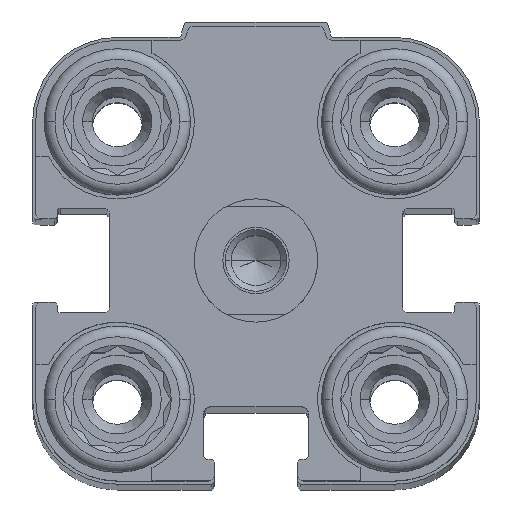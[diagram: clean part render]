
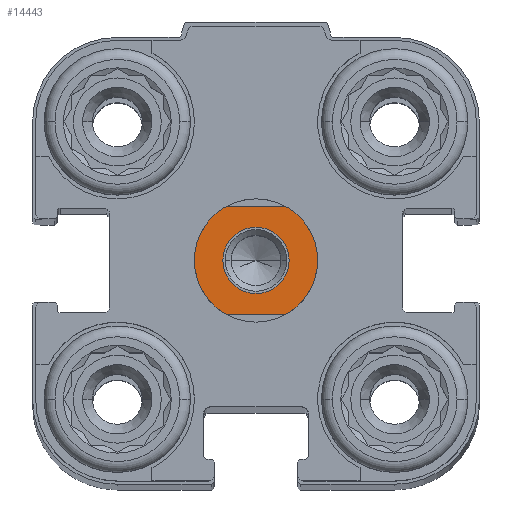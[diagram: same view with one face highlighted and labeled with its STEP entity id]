
A CAD part, top view. The second image highlights one B-rep face of the part: STEP entity #14443.
In plain terms, the highlighted planar face has unit normal (0, 0, 1).
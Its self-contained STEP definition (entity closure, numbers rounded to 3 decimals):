
#154 = CARTESIAN_POINT ( 'NONE',  ( 2.15, 0., 4.5 ) ) ;
#161 = ORIENTED_EDGE ( 'NONE', *, *, #10831, .T. ) ;
#213 = VECTOR ( 'NONE', #6345, 1000. ) ;
#549 = CARTESIAN_POINT ( 'NONE',  ( 0., 0., 4.5 ) ) ;
#1376 = EDGE_CURVE ( 'NONE', #11096, #3954, #14523, .T. ) ;
#1418 = CARTESIAN_POINT ( 'NONE',  ( 7., -3.5, 4.5 ) ) ;
#1562 = CIRCLE ( 'NONE', #15064, 2.15 ) ;
#1791 = PLANE ( 'NONE',  #10524 ) ;
#2148 = CIRCLE ( 'NONE', #9620, 4. ) ;
#2903 = DIRECTION ( 'NONE',  ( -1., 0., 0. ) ) ;
#3254 = CARTESIAN_POINT ( 'NONE',  ( 0., 0., 4.5 ) ) ;
#3766 = ORIENTED_EDGE ( 'NONE', *, *, #10337, .T. ) ;
#3954 = VERTEX_POINT ( 'NONE', #17569 ) ;
#4349 = CARTESIAN_POINT ( 'NONE',  ( 1.936, -3.5, 4.5 ) ) ;
#4358 = DIRECTION ( 'NONE',  ( 0., 0., -1. ) ) ;
#4405 = FACE_OUTER_BOUND ( 'NONE', #7008, .T. ) ;
#5013 = ORIENTED_EDGE ( 'NONE', *, *, #14653, .F. ) ;
#5559 = LINE ( 'NONE', #1418, #6099 ) ;
#5972 = AXIS2_PLACEMENT_3D ( 'NONE', #3254, #7581, #8929 ) ;
#6099 = VECTOR ( 'NONE', #6914, 1000. ) ;
#6202 = EDGE_CURVE ( 'NONE', #3954, #11638, #15429, .T. ) ;
#6345 = DIRECTION ( 'NONE',  ( 1., 0., 0. ) ) ;
#6518 = VERTEX_POINT ( 'NONE', #16436 ) ;
#6914 = DIRECTION ( 'NONE',  ( -1., 0., 0. ) ) ;
#7008 = EDGE_LOOP ( 'NONE', ( #8386, #13171, #5013, #14810, #8297, #16999 ) ) ;
#7581 = DIRECTION ( 'NONE',  ( 0., 0., -1. ) ) ;
#7607 = CARTESIAN_POINT ( 'NONE',  ( -7., 3.5, 4.5 ) ) ;
#7646 = EDGE_CURVE ( 'NONE', #17770, #10517, #5559, .T. ) ;
#7648 = CARTESIAN_POINT ( 'NONE',  ( -2.15, 0., 4.5 ) ) ;
#8161 = DIRECTION ( 'NONE',  ( -1., 0., 0. ) ) ;
#8230 = CARTESIAN_POINT ( 'NONE',  ( 0., 0., 4.5 ) ) ;
#8297 = ORIENTED_EDGE ( 'NONE', *, *, #11910, .F. ) ;
#8386 = ORIENTED_EDGE ( 'NONE', *, *, #1376, .F. ) ;
#8649 = VERTEX_POINT ( 'NONE', #7648 ) ;
#8814 = VERTEX_POINT ( 'NONE', #154 ) ;
#8929 = DIRECTION ( 'NONE',  ( -1., 0., 0. ) ) ;
#9164 = DIRECTION ( 'NONE',  ( -1., 0., 0. ) ) ;
#9620 = AXIS2_PLACEMENT_3D ( 'NONE', #13556, #17742, #8161 ) ;
#9900 = FACE_BOUND ( 'NONE', #13806, .T. ) ;
#10168 = EDGE_CURVE ( 'NONE', #6518, #11096, #15354, .T. ) ;
#10337 = EDGE_CURVE ( 'NONE', #8814, #8649, #1562, .T. ) ;
#10517 = VERTEX_POINT ( 'NONE', #12651 ) ;
#10524 = AXIS2_PLACEMENT_3D ( 'NONE', #11151, #14107, #15277 ) ;
#10731 = AXIS2_PLACEMENT_3D ( 'NONE', #14643, #17580, #9164 ) ;
#10831 = EDGE_CURVE ( 'NONE', #8649, #8814, #13653, .T. ) ;
#10863 = DIRECTION ( 'NONE',  ( 0., 0., -1. ) ) ;
#11096 = VERTEX_POINT ( 'NONE', #14838 ) ;
#11151 = CARTESIAN_POINT ( 'NONE',  ( 0., 0., 4.5 ) ) ;
#11350 = DIRECTION ( 'NONE',  ( -1., 0., 0. ) ) ;
#11638 = VERTEX_POINT ( 'NONE', #13947 ) ;
#11910 = EDGE_CURVE ( 'NONE', #11638, #17770, #15882, .T. ) ;
#12651 = CARTESIAN_POINT ( 'NONE',  ( -1.936, -3.5, 4.5 ) ) ;
#13171 = ORIENTED_EDGE ( 'NONE', *, *, #10168, .F. ) ;
#13552 = DIRECTION ( 'NONE',  ( -1., 0., 0. ) ) ;
#13556 = CARTESIAN_POINT ( 'NONE',  ( 0., 0., 4.5 ) ) ;
#13653 = CIRCLE ( 'NONE', #14512, 2.15 ) ;
#13806 = EDGE_LOOP ( 'NONE', ( #161, #3766 ) ) ;
#13947 = CARTESIAN_POINT ( 'NONE',  ( 4., 0., 4.5 ) ) ;
#14107 = DIRECTION ( 'NONE',  ( 0., 0., -1. ) ) ;
#14215 = DIRECTION ( 'NONE',  ( 0., 0., -1. ) ) ;
#14443 = ADVANCED_FACE ( 'NONE', ( #4405, #9900 ), #1791, .F. ) ;
#14512 = AXIS2_PLACEMENT_3D ( 'NONE', #8230, #4358, #2903 ) ;
#14523 = LINE ( 'NONE', #7607, #213 ) ;
#14643 = CARTESIAN_POINT ( 'NONE',  ( 0., 0., 4.5 ) ) ;
#14653 = EDGE_CURVE ( 'NONE', #10517, #6518, #2148, .T. ) ;
#14767 = AXIS2_PLACEMENT_3D ( 'NONE', #549, #14215, #11350 ) ;
#14810 = ORIENTED_EDGE ( 'NONE', *, *, #7646, .F. ) ;
#14838 = CARTESIAN_POINT ( 'NONE',  ( -1.936, 3.5, 4.5 ) ) ;
#15064 = AXIS2_PLACEMENT_3D ( 'NONE', #16224, #10863, #13552 ) ;
#15277 = DIRECTION ( 'NONE',  ( 0., 1., 0. ) ) ;
#15354 = CIRCLE ( 'NONE', #14767, 4. ) ;
#15429 = CIRCLE ( 'NONE', #5972, 4. ) ;
#15882 = CIRCLE ( 'NONE', #10731, 4. ) ;
#16224 = CARTESIAN_POINT ( 'NONE',  ( 0., 0., 4.5 ) ) ;
#16436 = CARTESIAN_POINT ( 'NONE',  ( -4., 0., 4.5 ) ) ;
#16999 = ORIENTED_EDGE ( 'NONE', *, *, #6202, .F. ) ;
#17569 = CARTESIAN_POINT ( 'NONE',  ( 1.936, 3.5, 4.5 ) ) ;
#17580 = DIRECTION ( 'NONE',  ( 0., 0., -1. ) ) ;
#17742 = DIRECTION ( 'NONE',  ( 0., 0., -1. ) ) ;
#17770 = VERTEX_POINT ( 'NONE', #4349 ) ;
